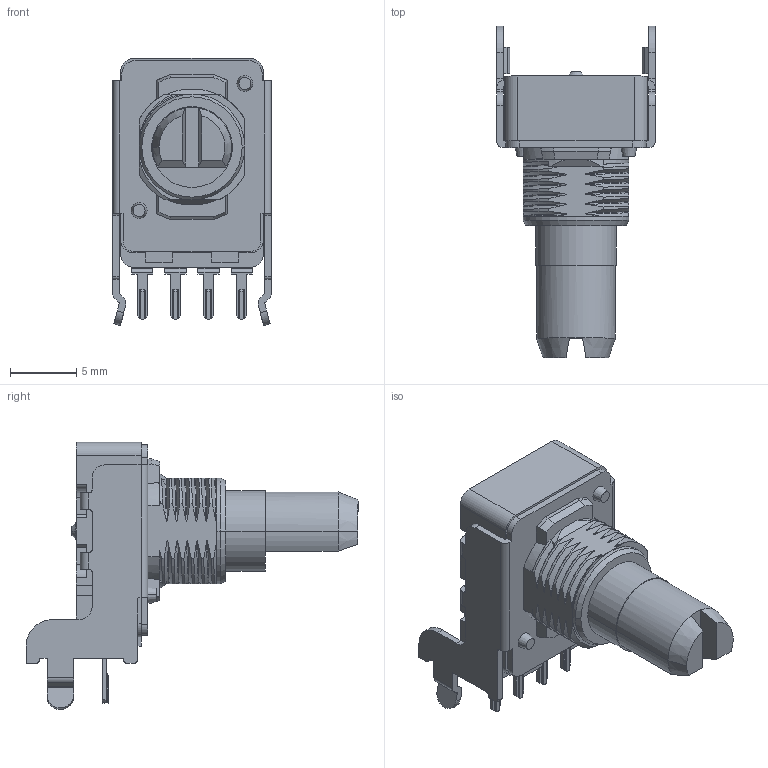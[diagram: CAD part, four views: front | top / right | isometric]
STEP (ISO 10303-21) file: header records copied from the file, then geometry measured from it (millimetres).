
FILE_DESCRIPTION (( 'STEP AP214' ), '1' );
FILE_NAME ('RK11K1120-F22.STEP', '2015-10-07T07:01:36', ( '' ), ( '' ), 'SwSTEP 2.0', 'SolidWorks 2014', '' );
FILE_SCHEMA (( 'AUTOMOTIVE_DESIGN' ));
Length unit declared in the file: millimetre
Products named in the file (1): RK11K1120-F22
Bounding box: 12 x 25.1 x 20.2 mm (x, y, z)
Volume: 1517.2 mm3; surface area: 1454.8 mm2
Topology: 1 solids, 1 shells, 492 faces, 1409 edges, 920 vertices
Faces by surface type: plane 244, cylinder 150, bspline 75, cone 15, torus 8
Entity records: 37904 total; most frequent: CARTESIAN_POINT 20331, ORIENTED_EDGE 2818, DIRECTION 2236, EDGE_CURVE 1409, VERTEX_POINT 920, VECTOR 812, LINE 812, AXIS2_PLACEMENT_3D 712
